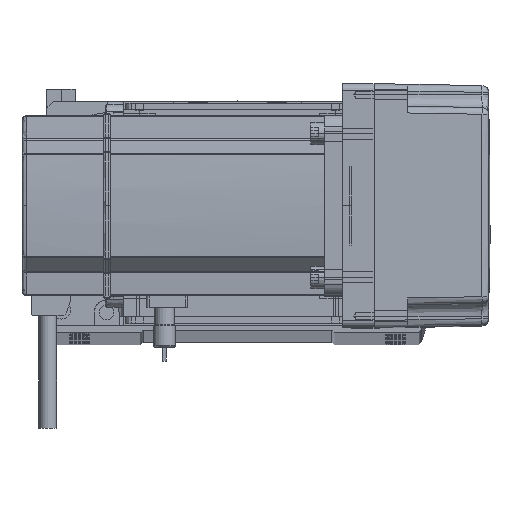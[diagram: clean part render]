
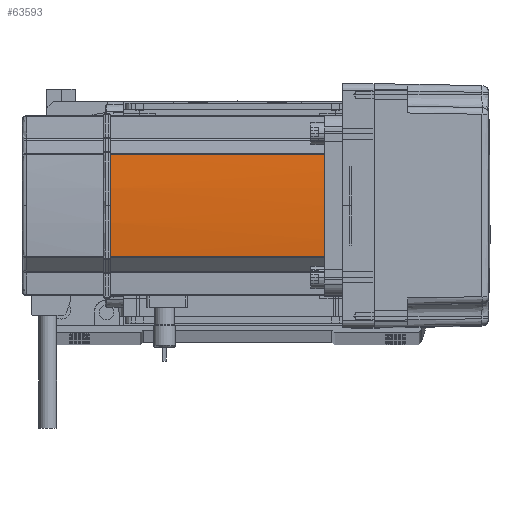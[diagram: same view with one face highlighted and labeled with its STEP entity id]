
A CAD part, top view. The second image highlights one B-rep face of the part: STEP entity #63593.
In plain terms, the highlighted cylindrical face has radius 270 mm (diameter 540 mm), a partial arc.
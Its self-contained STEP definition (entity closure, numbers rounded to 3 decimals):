
#1987 = CARTESIAN_POINT ( 'NONE',  ( 230., 0., 134. ) ) ;
#3976 = VERTEX_POINT ( 'NONE', #34198 ) ;
#6390 = DIRECTION ( 'NONE',  ( 0., 0., 1. ) ) ;
#6877 = CARTESIAN_POINT ( 'NONE',  ( -40., 0., 134. ) ) ;
#8064 = ORIENTED_EDGE ( 'NONE', *, *, #46059, .T. ) ;
#8422 = ORIENTED_EDGE ( 'NONE', *, *, #12560, .T. ) ;
#11922 = EDGE_CURVE ( 'NONE', #12834, #25524, #58384, .T. ) ;
#12560 = EDGE_CURVE ( 'NONE', #64412, #3976, #15372, .T. ) ;
#12716 = CIRCLE ( 'NONE', #63541, 270. ) ;
#12834 = VERTEX_POINT ( 'NONE', #16008 ) ;
#14336 = CARTESIAN_POINT ( 'NONE',  ( 230., 0., 39. ) ) ;
#14490 = CIRCLE ( 'NONE', #15033, 270. ) ;
#14597 = VECTOR ( 'NONE', #6390, 1000. ) ;
#15033 = AXIS2_PLACEMENT_3D ( 'NONE', #14336, #49944, #34591 ) ;
#15372 = LINE ( 'NONE', #17824, #54351 ) ;
#16008 = CARTESIAN_POINT ( 'NONE',  ( -39.042, -22.724, 39. ) ) ;
#17824 = CARTESIAN_POINT ( 'NONE',  ( -39.042, 22.724, 0. ) ) ;
#18081 = FACE_OUTER_BOUND ( 'NONE', #55526, .T. ) ;
#21898 = CARTESIAN_POINT ( 'NONE',  ( -39.042, -22.724, 0. ) ) ;
#22592 = DIRECTION ( 'NONE',  ( 0., 0., -1. ) ) ;
#23669 = CARTESIAN_POINT ( 'NONE',  ( 230., 0., 0. ) ) ;
#23678 = VERTEX_POINT ( 'NONE', #6877 ) ;
#24459 = DIRECTION ( 'NONE',  ( 0., 0., -1. ) ) ;
#25524 = VERTEX_POINT ( 'NONE', #35311 ) ;
#27729 = DIRECTION ( 'NONE',  ( 1., 0., 0. ) ) ;
#32319 = AXIS2_PLACEMENT_3D ( 'NONE', #1987, #22592, #27729 ) ;
#33090 = CARTESIAN_POINT ( 'NONE',  ( -39.042, 22.724, 134. ) ) ;
#33222 = CYLINDRICAL_SURFACE ( 'NONE', #58014, 270. ) ;
#34198 = CARTESIAN_POINT ( 'NONE',  ( -39.042, 22.724, 39. ) ) ;
#34591 = DIRECTION ( 'NONE',  ( 1., 0., 0. ) ) ;
#34619 = ORIENTED_EDGE ( 'NONE', *, *, #36026, .F. ) ;
#35311 = CARTESIAN_POINT ( 'NONE',  ( -39.042, -22.724, 134. ) ) ;
#35383 = CIRCLE ( 'NONE', #32319, 270. ) ;
#36026 = EDGE_CURVE ( 'NONE', #12834, #3976, #14490, .T. ) ;
#46059 = EDGE_CURVE ( 'NONE', #23678, #64412, #12716, .T. ) ;
#49616 = CARTESIAN_POINT ( 'NONE',  ( 230., 0., 134. ) ) ;
#49944 = DIRECTION ( 'NONE',  ( 0., 0., -1. ) ) ;
#51504 = EDGE_CURVE ( 'NONE', #25524, #23678, #35383, .T. ) ;
#53605 = DIRECTION ( 'NONE',  ( 0., 0., -1. ) ) ;
#54351 = VECTOR ( 'NONE', #53605, 1000. ) ;
#54914 = DIRECTION ( 'NONE',  ( 1., 0., 0. ) ) ;
#55526 = EDGE_LOOP ( 'NONE', ( #58968, #8064, #8422, #34619, #61443 ) ) ;
#58014 = AXIS2_PLACEMENT_3D ( 'NONE', #23669, #64119, #59900 ) ;
#58384 = LINE ( 'NONE', #21898, #14597 ) ;
#58968 = ORIENTED_EDGE ( 'NONE', *, *, #51504, .T. ) ;
#59900 = DIRECTION ( 'NONE',  ( 1., 0., 0. ) ) ;
#61443 = ORIENTED_EDGE ( 'NONE', *, *, #11922, .T. ) ;
#63541 = AXIS2_PLACEMENT_3D ( 'NONE', #49616, #24459, #54914 ) ;
#63593 = ADVANCED_FACE ( 'NONE', ( #18081 ), #33222, .T. ) ;
#64119 = DIRECTION ( 'NONE',  ( 0., 0., 1. ) ) ;
#64412 = VERTEX_POINT ( 'NONE', #33090 ) ;
